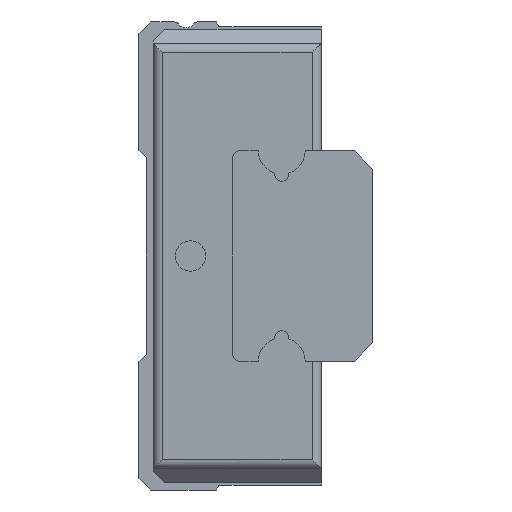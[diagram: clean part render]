
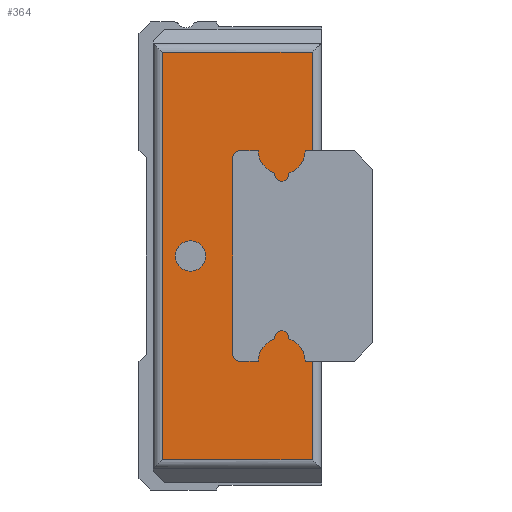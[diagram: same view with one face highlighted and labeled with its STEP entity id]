
A CAD part, left-side view. The second image highlights one B-rep face of the part: STEP entity #364.
In plain terms, the highlighted planar face has unit normal (-1, 0, 0).
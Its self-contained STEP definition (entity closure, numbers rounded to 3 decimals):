
#364 = ADVANCED_FACE( '', ( #731, #732 ), #733, .T. );
#731 = FACE_OUTER_BOUND( '', #1087, .T. );
#732 = FACE_BOUND( '', #1088, .T. );
#733 = PLANE( '', #1089 );
#1087 = EDGE_LOOP( '', ( #1963, #1964, #1965, #1966, #1967, #1968, #1969, #1970, #1971, #1972, #1973, #1974, #1975, #1976, #1977, #1978, #1979, #1980 ) );
#1088 = EDGE_LOOP( '', ( #1981 ) );
#1089 = AXIS2_PLACEMENT_3D( '', #1982, #1983, #1984 );
#1963 = ORIENTED_EDGE( '', *, *, #2353, .T. );
#1964 = ORIENTED_EDGE( '', *, *, #2305, .F. );
#1965 = ORIENTED_EDGE( '', *, *, #2203, .T. );
#1966 = ORIENTED_EDGE( '', *, *, #2355, .F. );
#1967 = ORIENTED_EDGE( '', *, *, #2042, .F. );
#1968 = ORIENTED_EDGE( '', *, *, #2187, .F. );
#1969 = ORIENTED_EDGE( '', *, *, #2256, .T. );
#1970 = ORIENTED_EDGE( '', *, *, #2131, .T. );
#1971 = ORIENTED_EDGE( '', *, *, #2253, .T. );
#1972 = ORIENTED_EDGE( '', *, *, #2358, .T. );
#1973 = ORIENTED_EDGE( '', *, *, #2347, .T. );
#1974 = ORIENTED_EDGE( '', *, *, #2249, .F. );
#1975 = ORIENTED_EDGE( '', *, *, #2271, .F. );
#1976 = ORIENTED_EDGE( '', *, *, #2064, .F. );
#1977 = ORIENTED_EDGE( '', *, *, #2310, .T. );
#1978 = ORIENTED_EDGE( '', *, *, #2345, .F. );
#1979 = ORIENTED_EDGE( '', *, *, #2107, .F. );
#1980 = ORIENTED_EDGE( '', *, *, #2265, .T. );
#1981 = ORIENTED_EDGE( '', *, *, #2340, .T. );
#1982 = CARTESIAN_POINT( '', ( -19.9, 0., 0. ) );
#1983 = DIRECTION( '', ( -1., 0., 0. ) );
#1984 = DIRECTION( '', ( 0., 0., 1. ) );
#2042 = EDGE_CURVE( '', #2406, #2407, #2408, .T. );
#2064 = EDGE_CURVE( '', #2445, #2446, #2447, .T. );
#2107 = EDGE_CURVE( '', #2523, #2525, #2526, .T. );
#2131 = EDGE_CURVE( '', #2565, #2566, #2567, .T. );
#2187 = EDGE_CURVE( '', #2654, #2406, #2655, .T. );
#2203 = EDGE_CURVE( '', #2681, #2679, #2682, .T. );
#2249 = EDGE_CURVE( '', #2743, #2744, #2745, .T. );
#2253 = EDGE_CURVE( '', #2566, #2749, #2750, .T. );
#2256 = EDGE_CURVE( '', #2654, #2565, #2753, .T. );
#2265 = EDGE_CURVE( '', #2523, #2762, #2764, .T. );
#2271 = EDGE_CURVE( '', #2446, #2743, #2771, .T. );
#2305 = EDGE_CURVE( '', #2681, #2819, #2820, .T. );
#2310 = EDGE_CURVE( '', #2445, #2825, #2827, .T. );
#2340 = EDGE_CURVE( '', #2863, #2863, #2864, .T. );
#2345 = EDGE_CURVE( '', #2525, #2825, #2870, .T. );
#2347 = EDGE_CURVE( '', #2872, #2744, #2873, .T. );
#2353 = EDGE_CURVE( '', #2762, #2819, #2879, .T. );
#2355 = EDGE_CURVE( '', #2407, #2679, #2881, .T. );
#2358 = EDGE_CURVE( '', #2749, #2872, #2884, .T. );
#2406 = VERTEX_POINT( '', #2936 );
#2407 = VERTEX_POINT( '', #2937 );
#2408 = CIRCLE( '', #2938, 0.3 );
#2445 = VERTEX_POINT( '', #2984 );
#2446 = VERTEX_POINT( '', #2985 );
#2447 = CIRCLE( '', #2986, 1. );
#2523 = VERTEX_POINT( '', #3087 );
#2525 = VERTEX_POINT( '', #3089 );
#2526 = LINE( '', #3090, #3091 );
#2565 = VERTEX_POINT( '', #3143 );
#2566 = VERTEX_POINT( '', #3144 );
#2567 = CIRCLE( '', #3145, 0.2 );
#2654 = VERTEX_POINT( '', #3264 );
#2655 = CIRCLE( '', #3265, 1. );
#2679 = VERTEX_POINT( '', #3298 );
#2681 = VERTEX_POINT( '', #3301 );
#2682 = LINE( '', #3302, #3303 );
#2743 = VERTEX_POINT( '', #3383 );
#2744 = VERTEX_POINT( '', #3384 );
#2745 = CIRCLE( '', #3385, 1. );
#2749 = VERTEX_POINT( '', #3391 );
#2750 = LINE( '', #3392, #3393 );
#2753 = LINE( '', #3397, #3398 );
#2762 = VERTEX_POINT( '', #3410 );
#2764 = LINE( '', #3412, #3413 );
#2771 = CIRCLE( '', #3422, 0.3 );
#2819 = VERTEX_POINT( '', #3488 );
#2820 = LINE( '', #3489, #3490 );
#2825 = VERTEX_POINT( '', #3496 );
#2827 = LINE( '', #3498, #3499 );
#2863 = VERTEX_POINT( '', #3549 );
#2864 = CIRCLE( '', #3550, 0.65 );
#2870 = LINE( '', #3557, #3558 );
#2872 = VERTEX_POINT( '', #3560 );
#2873 = LINE( '', #3561, #3562 );
#2879 = LINE( '', #3570, #3571 );
#2881 = CIRCLE( '', #3573, 1. );
#2884 = CIRCLE( '', #3576, 0.2 );
#2936 = CARTESIAN_POINT( '', ( -19.9, 1.997, -3.545 ) );
#2937 = CARTESIAN_POINT( '', ( -19.9, 1.403, -3.545 ) );
#2938 = AXIS2_PLACEMENT_3D( '', #3630, #3631, #3632 );
#2984 = CARTESIAN_POINT( '', ( -19.9, 0.7, 4.5 ) );
#2985 = CARTESIAN_POINT( '', ( -19.9, 1.403, 3.545 ) );
#2986 = AXIS2_PLACEMENT_3D( '', #3663, #3664, #3665 );
#3087 = CARTESIAN_POINT( '', ( -19.9, 6.8, 8.7 ) );
#3089 = CARTESIAN_POINT( '', ( -19.9, 0.4, 8.7 ) );
#3090 = CARTESIAN_POINT( '', ( -19.9, 7.8, 8.7 ) );
#3091 = VECTOR( '', #3727, 1000. );
#3143 = CARTESIAN_POINT( '', ( -19.9, 3.1, -4.5 ) );
#3144 = CARTESIAN_POINT( '', ( -19.9, 3.3, -4.3 ) );
#3145 = AXIS2_PLACEMENT_3D( '', #3753, #3754, #3755 );
#3264 = CARTESIAN_POINT( '', ( -19.9, 2.7, -4.5 ) );
#3265 = AXIS2_PLACEMENT_3D( '', #3818, #3819, #3820 );
#3298 = CARTESIAN_POINT( '', ( -19.9, 0.7, -4.5 ) );
#3301 = CARTESIAN_POINT( '', ( -19.9, 0.4, -4.5 ) );
#3302 = CARTESIAN_POINT( '', ( -19.9, 0., -4.5 ) );
#3303 = VECTOR( '', #3837, 1000. );
#3383 = CARTESIAN_POINT( '', ( -19.9, 1.997, 3.545 ) );
#3384 = CARTESIAN_POINT( '', ( -19.9, 2.7, 4.5 ) );
#3385 = AXIS2_PLACEMENT_3D( '', #3890, #3891, #3892 );
#3391 = CARTESIAN_POINT( '', ( -19.9, 3.3, 4.3 ) );
#3392 = CARTESIAN_POINT( '', ( -19.9, 3.3, -4.3 ) );
#3393 = VECTOR( '', #3895, 1000. );
#3397 = CARTESIAN_POINT( '', ( -19.9, 2.7, -4.5 ) );
#3398 = VECTOR( '', #3897, 1000. );
#3410 = CARTESIAN_POINT( '', ( -19.9, 6.8, -8.7 ) );
#3412 = CARTESIAN_POINT( '', ( -19.9, 6.8, 10. ) );
#3413 = VECTOR( '', #3907, 1000. );
#3422 = AXIS2_PLACEMENT_3D( '', #3913, #3914, #3915 );
#3488 = CARTESIAN_POINT( '', ( -19.9, 0.4, -8.7 ) );
#3489 = CARTESIAN_POINT( '', ( -19.9, 0.4, 10. ) );
#3490 = VECTOR( '', #3946, 1000. );
#3496 = CARTESIAN_POINT( '', ( -19.9, 0.4, 4.5 ) );
#3498 = CARTESIAN_POINT( '', ( -19.9, 0.7, 4.5 ) );
#3499 = VECTOR( '', #3954, 1000. );
#3549 = CARTESIAN_POINT( '', ( -19.9, 5.6, -0.65 ) );
#3550 = AXIS2_PLACEMENT_3D( '', #3981, #3982, #3983 );
#3557 = CARTESIAN_POINT( '', ( -19.9, 0.4, 10. ) );
#3558 = VECTOR( '', #3988, 1000. );
#3560 = CARTESIAN_POINT( '', ( -19.9, 3.1, 4.5 ) );
#3561 = CARTESIAN_POINT( '', ( -19.9, 3.1, 4.5 ) );
#3562 = VECTOR( '', #3989, 1000. );
#3570 = CARTESIAN_POINT( '', ( -19.9, 7.8, -8.7 ) );
#3571 = VECTOR( '', #3992, 1000. );
#3573 = AXIS2_PLACEMENT_3D( '', #3993, #3994, #3995 );
#3576 = AXIS2_PLACEMENT_3D( '', #3996, #3997, #3998 );
#3630 = CARTESIAN_POINT( '', ( -19.9, 1.7, -3.5 ) );
#3631 = DIRECTION( '', ( 1., 0., 0. ) );
#3632 = DIRECTION( '', ( 0., 0., -1. ) );
#3663 = CARTESIAN_POINT( '', ( -19.9, 1.7, 4.5 ) );
#3664 = DIRECTION( '', ( 1., 0., 0. ) );
#3665 = DIRECTION( '', ( 0., 0., -1. ) );
#3727 = DIRECTION( '', ( 0., -1., 0. ) );
#3753 = CARTESIAN_POINT( '', ( -19.9, 3.1, -4.3 ) );
#3754 = DIRECTION( '', ( 1., 0., 0. ) );
#3755 = DIRECTION( '', ( 0., 0., -1. ) );
#3818 = CARTESIAN_POINT( '', ( -19.9, 1.7, -4.5 ) );
#3819 = DIRECTION( '', ( 1., 0., 0. ) );
#3820 = DIRECTION( '', ( 0., 0., -1. ) );
#3837 = DIRECTION( '', ( 0., 1., 0. ) );
#3890 = CARTESIAN_POINT( '', ( -19.9, 1.7, 4.5 ) );
#3891 = DIRECTION( '', ( 1., 0., 0. ) );
#3892 = DIRECTION( '', ( 0., 0., -1. ) );
#3895 = DIRECTION( '', ( 0., 0., 1. ) );
#3897 = DIRECTION( '', ( 0., 1., 0. ) );
#3907 = DIRECTION( '', ( 0., 0., -1. ) );
#3913 = CARTESIAN_POINT( '', ( -19.9, 1.7, 3.5 ) );
#3914 = DIRECTION( '', ( 1., 0., 0. ) );
#3915 = DIRECTION( '', ( 0., 0., -1. ) );
#3946 = DIRECTION( '', ( 0., 0., -1. ) );
#3954 = DIRECTION( '', ( 0., -1., 0. ) );
#3981 = CARTESIAN_POINT( '', ( -19.9, 5.6, 0. ) );
#3982 = DIRECTION( '', ( 1., 0., 0. ) );
#3983 = DIRECTION( '', ( 0., 0., -1. ) );
#3988 = DIRECTION( '', ( 0., 0., -1. ) );
#3989 = DIRECTION( '', ( 0., -1., 0. ) );
#3992 = DIRECTION( '', ( 0., -1., 0. ) );
#3993 = CARTESIAN_POINT( '', ( -19.9, 1.7, -4.5 ) );
#3994 = DIRECTION( '', ( 1., 0., 0. ) );
#3995 = DIRECTION( '', ( 0., 0., -1. ) );
#3996 = CARTESIAN_POINT( '', ( -19.9, 3.1, 4.3 ) );
#3997 = DIRECTION( '', ( 1., 0., 0. ) );
#3998 = DIRECTION( '', ( 0., 0., -1. ) );
